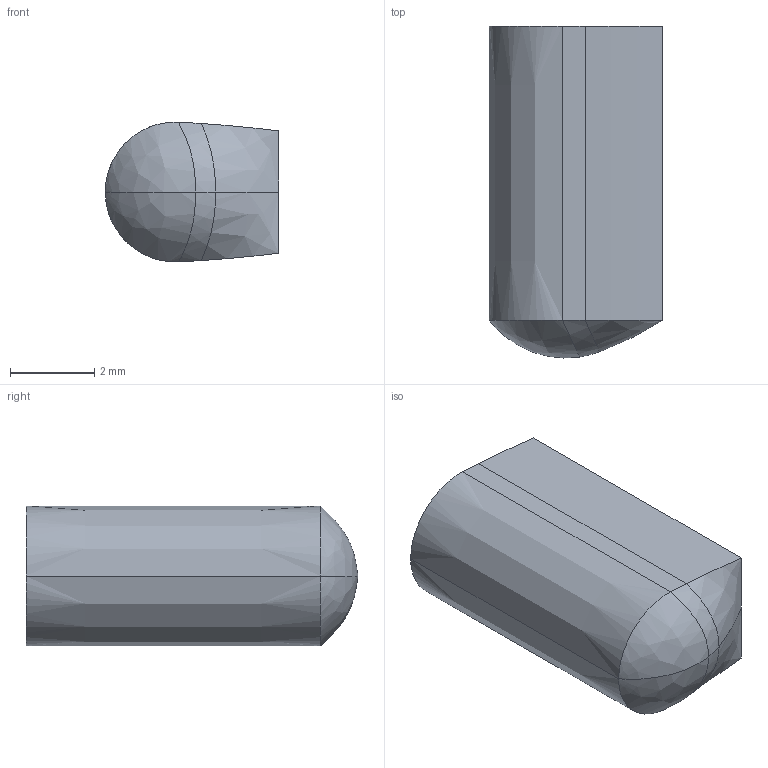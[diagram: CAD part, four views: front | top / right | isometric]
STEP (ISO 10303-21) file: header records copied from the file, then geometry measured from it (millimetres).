
FILE_DESCRIPTION((''),'2;1');
FILE_NAME('DE14-28','2004-03-24T',('tmeister'),(''),'PRO/ENGINEER BY PARAMETRIC TECHNOLOGY CORPORATION, 2002390','PRO/ENGINEER BY PARAMETRIC TECHNOLOGY CORPORATION, 2002390','');
FILE_SCHEMA(('CONFIG_CONTROL_DESIGN'));
Length unit declared in the file: millimetre
Products named in the file (1): DE14-28
Bounding box: 4.13 x 7.9 x 3.33 mm (x, y, z)
Surface area: 106 mm2 (no closed solid volume)
Topology: 0 solids, 1 shells, 13 faces, 31 edges, 17 vertices
Faces by surface type: bspline 6, plane 3, cylinder 2, extrusion 2
Entity records: 552 total; most frequent: CARTESIAN_POINT 271, ORIENTED_EDGE 51, DIRECTION 32, EDGE_CURVE 29, VERTEX_POINT 17, B_SPLINE_CURVE_WITH_KNOTS 15, VECTOR 14, EDGE_LOOP 13
